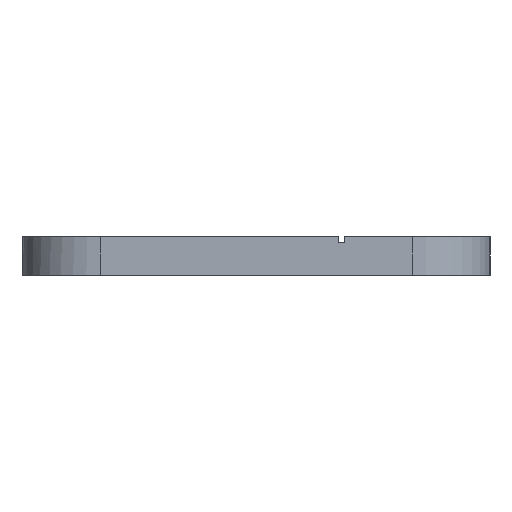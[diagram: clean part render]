
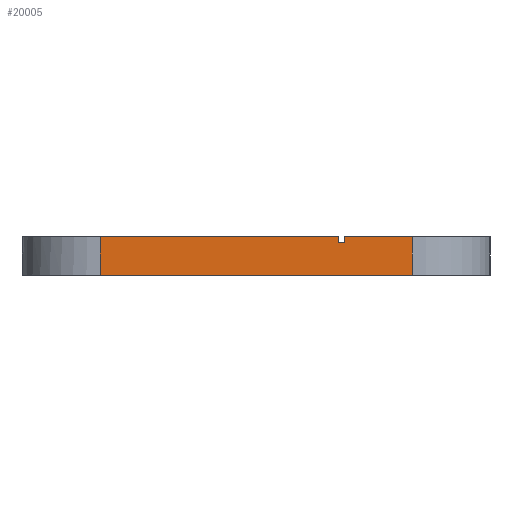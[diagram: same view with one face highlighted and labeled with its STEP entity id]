
A CAD part, left-side view. The second image highlights one B-rep face of the part: STEP entity #20005.
In plain terms, the highlighted planar face has unit normal (-1, 0, 0).
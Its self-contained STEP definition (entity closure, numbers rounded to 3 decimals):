
#19967=AXIS2_PLACEMENT_3D('Plane Axis2P3D',#19964,#19965,#19966) ;
#9266=CARTESIAN_POINT('Line Origine',(-165.,-5.5,2.1)) ;
#9270=CARTESIAN_POINT('Vertex',(-165.,-5.3,2.1)) ;
#9272=CARTESIAN_POINT('Vertex',(-165.,-5.7,2.1)) ;
#9327=CARTESIAN_POINT('Line Origine',(-165.,-5.7,2.3)) ;
#9331=CARTESIAN_POINT('Vertex',(-165.,-5.7,2.5)) ;
#9351=CARTESIAN_POINT('Line Origine',(-165.,-5.3,2.3)) ;
#9355=CARTESIAN_POINT('Vertex',(-165.,-5.3,2.5)) ;
#19750=CARTESIAN_POINT('Vertex',(-165.,-10.,0.)) ;
#19753=CARTESIAN_POINT('Line Origine',(-165.,0.,0.)) ;
#19757=CARTESIAN_POINT('Vertex',(-165.,10.,0.)) ;
#19922=CARTESIAN_POINT('Line Origine',(-165.,-10.,1.45)) ;
#19926=CARTESIAN_POINT('Vertex',(-165.,-10.,2.1)) ;
#19947=CARTESIAN_POINT('Vertex',(-165.,-10.,2.5)) ;
#19950=CARTESIAN_POINT('Line Origine',(-165.,-10.,1.45)) ;
#19964=CARTESIAN_POINT('Axis2P3D Location',(-165.,15.,0.)) ;
#19969=CARTESIAN_POINT('Line Origine',(-165.,10.,1.05)) ;
#19973=CARTESIAN_POINT('Vertex',(-165.,10.,2.1)) ;
#19976=CARTESIAN_POINT('Line Origine',(-165.,-7.85,2.5)) ;
#19981=CARTESIAN_POINT('Line Origine',(-165.,2.35,2.5)) ;
#19985=CARTESIAN_POINT('Vertex',(-165.,10.,2.5)) ;
#19988=CARTESIAN_POINT('Line Origine',(-165.,10.,2.3)) ;
#9267=DIRECTION('Vector Direction',(0.,-1.,0.)) ;
#9328=DIRECTION('Vector Direction',(0.,0.,-1.)) ;
#9352=DIRECTION('Vector Direction',(0.,0.,-1.)) ;
#19754=DIRECTION('Vector Direction',(0.,-1.,0.)) ;
#19923=DIRECTION('Vector Direction',(0.,0.,-1.)) ;
#19951=DIRECTION('Vector Direction',(0.,0.,-1.)) ;
#19965=DIRECTION('Axis2P3D Direction',(-1.,0.,0.)) ;
#19966=DIRECTION('Axis2P3D XDirection',(0.,-1.,0.)) ;
#19970=DIRECTION('Vector Direction',(0.,0.,1.)) ;
#19977=DIRECTION('Vector Direction',(0.,-1.,0.)) ;
#19982=DIRECTION('Vector Direction',(0.,-1.,0.)) ;
#19989=DIRECTION('Vector Direction',(0.,0.,-1.)) ;
#9268=VECTOR('Line Direction',#9267,1.) ;
#9329=VECTOR('Line Direction',#9328,1.) ;
#9353=VECTOR('Line Direction',#9352,1.) ;
#19755=VECTOR('Line Direction',#19754,1.) ;
#19924=VECTOR('Line Direction',#19923,1.) ;
#19952=VECTOR('Line Direction',#19951,1.) ;
#19971=VECTOR('Line Direction',#19970,1.) ;
#19978=VECTOR('Line Direction',#19977,1.) ;
#19983=VECTOR('Line Direction',#19982,1.) ;
#19990=VECTOR('Line Direction',#19989,1.) ;
#19994=ORIENTED_EDGE('',*,*,#19975,.F.) ;
#19995=ORIENTED_EDGE('',*,*,#19759,.F.) ;
#19996=ORIENTED_EDGE('',*,*,#19928,.T.) ;
#19997=ORIENTED_EDGE('',*,*,#19954,.F.) ;
#19998=ORIENTED_EDGE('',*,*,#19980,.T.) ;
#19999=ORIENTED_EDGE('',*,*,#9333,.T.) ;
#20000=ORIENTED_EDGE('',*,*,#9274,.F.) ;
#20001=ORIENTED_EDGE('',*,*,#9357,.F.) ;
#20002=ORIENTED_EDGE('',*,*,#19987,.T.) ;
#20003=ORIENTED_EDGE('',*,*,#19992,.T.) ;
#20005=ADVANCED_FACE('Body.2',(#20004),#19968,.T.) ;
#9274=EDGE_CURVE('',#9271,#9273,#9269,.T.) ;
#9333=EDGE_CURVE('',#9332,#9273,#9330,.T.) ;
#9357=EDGE_CURVE('',#9356,#9271,#9354,.T.) ;
#19759=EDGE_CURVE('',#19751,#19758,#19756,.F.) ;
#19928=EDGE_CURVE('',#19751,#19927,#19925,.F.) ;
#19954=EDGE_CURVE('',#19948,#19927,#19953,.T.) ;
#19975=EDGE_CURVE('',#19758,#19974,#19972,.T.) ;
#19980=EDGE_CURVE('',#19948,#9332,#19979,.F.) ;
#19987=EDGE_CURVE('',#9356,#19986,#19984,.F.) ;
#19992=EDGE_CURVE('',#19986,#19974,#19991,.T.) ;
#19993=EDGE_LOOP('',(#19994,#19995,#19996,#19997,#19998,#19999,#20000,#20001,#20002,#20003)) ;
#20004=FACE_OUTER_BOUND('',#19993,.T.) ;
#9269=LINE('Line',#9266,#9268) ;
#9330=LINE('Line',#9327,#9329) ;
#9354=LINE('Line',#9351,#9353) ;
#19756=LINE('Line',#19753,#19755) ;
#19925=LINE('Line',#19922,#19924) ;
#19953=LINE('Line',#19950,#19952) ;
#19972=LINE('Line',#19969,#19971) ;
#19979=LINE('Line',#19976,#19978) ;
#19984=LINE('Line',#19981,#19983) ;
#19991=LINE('Line',#19988,#19990) ;
#19968=PLANE('',#19967) ;
#9271=VERTEX_POINT('',#9270) ;
#9273=VERTEX_POINT('',#9272) ;
#9332=VERTEX_POINT('',#9331) ;
#9356=VERTEX_POINT('',#9355) ;
#19751=VERTEX_POINT('',#19750) ;
#19758=VERTEX_POINT('',#19757) ;
#19927=VERTEX_POINT('',#19926) ;
#19948=VERTEX_POINT('',#19947) ;
#19974=VERTEX_POINT('',#19973) ;
#19986=VERTEX_POINT('',#19985) ;
